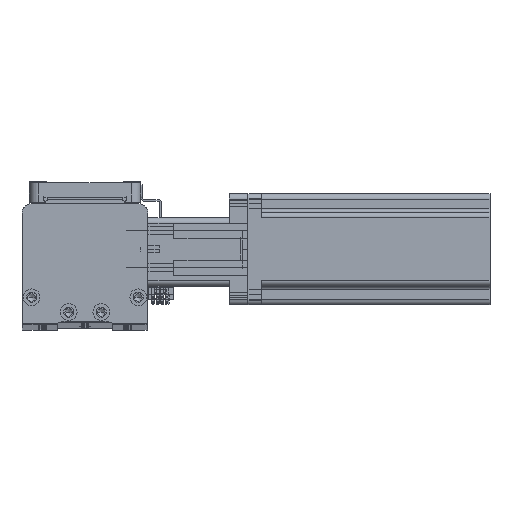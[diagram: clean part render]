
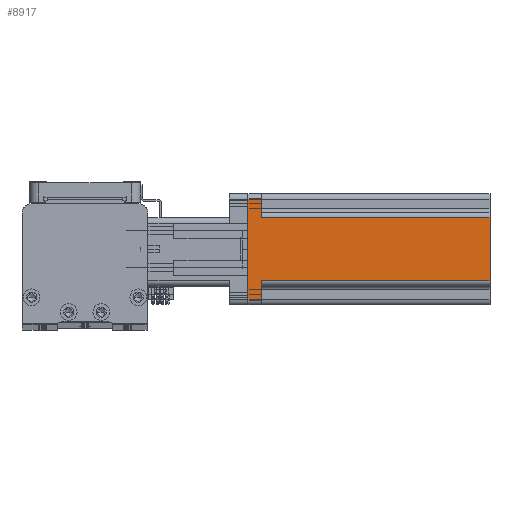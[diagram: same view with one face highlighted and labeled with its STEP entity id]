
A CAD part, top view. The second image highlights one B-rep face of the part: STEP entity #8917.
In plain terms, the highlighted planar face has unit normal (0, 0, 1) as drawn and (1, 0, 0) by its records, which use the part's own axes.
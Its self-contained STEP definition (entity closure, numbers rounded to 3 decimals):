
#638 = DIRECTION ( 'NONE',  ( 0., 0., 1. ) ) ;
#877 = CARTESIAN_POINT ( 'NONE',  ( 30., 17., 130.7 ) ) ;
#1776 = CARTESIAN_POINT ( 'NONE',  ( 30., 27., 130.7 ) ) ;
#1944 = VERTEX_POINT ( 'NONE', #25185 ) ;
#2016 = CARTESIAN_POINT ( 'NONE',  ( 30., 17., 130.7 ) ) ;
#2227 = EDGE_CURVE ( 'NONE', #5102, #1944, #44842, .T. ) ;
#2245 = CARTESIAN_POINT ( 'NONE',  ( 30., -30., 130.7 ) ) ;
#2794 = EDGE_CURVE ( 'NONE', #15644, #11544, #30689, .T. ) ;
#3377 = VECTOR ( 'NONE', #39679, 1000. ) ;
#5102 = VERTEX_POINT ( 'NONE', #40933 ) ;
#5184 = ORIENTED_EDGE ( 'NONE', *, *, #2794, .T. ) ;
#6042 = EDGE_CURVE ( 'NONE', #11544, #44655, #34759, .T. ) ;
#6319 = DIRECTION ( 'NONE',  ( 0., 1., 0. ) ) ;
#7543 = LINE ( 'NONE', #1776, #37627 ) ;
#8917 = ADVANCED_FACE ( 'NONE', ( #50187 ), #29107, .F. ) ;
#9025 = VECTOR ( 'NONE', #34470, 1000. ) ;
#11544 = VERTEX_POINT ( 'NONE', #49377 ) ;
#13808 = LINE ( 'NONE', #2245, #45254 ) ;
#15223 = VECTOR ( 'NONE', #41741, 1000. ) ;
#15644 = VERTEX_POINT ( 'NONE', #45072 ) ;
#16711 = EDGE_LOOP ( 'NONE', ( #28254, #50768, #23292, #5184, #36632, #45645, #38113, #36649 ) ) ;
#19877 = LINE ( 'NONE', #26411, #9025 ) ;
#20228 = CARTESIAN_POINT ( 'NONE',  ( 30., 17., 7.5 ) ) ;
#22086 = EDGE_CURVE ( 'NONE', #52511, #24939, #19877, .T. ) ;
#23292 = ORIENTED_EDGE ( 'NONE', *, *, #34218, .T. ) ;
#24601 = CARTESIAN_POINT ( 'NONE',  ( 30., -30., 7.5 ) ) ;
#24939 = VERTEX_POINT ( 'NONE', #37648 ) ;
#25185 = CARTESIAN_POINT ( 'NONE',  ( 30., -17., 7.5 ) ) ;
#25189 = DIRECTION ( 'NONE',  ( -1., 0., 0. ) ) ;
#25865 = CARTESIAN_POINT ( 'NONE',  ( 30., -27., 130.7 ) ) ;
#26411 = CARTESIAN_POINT ( 'NONE',  ( 30., 30., 7.5 ) ) ;
#28254 = ORIENTED_EDGE ( 'NONE', *, *, #38130, .F. ) ;
#28689 = LINE ( 'NONE', #877, #15223 ) ;
#29107 = PLANE ( 'NONE',  #46000 ) ;
#29959 = DIRECTION ( 'NONE',  ( 0., 0., -1. ) ) ;
#30106 = VECTOR ( 'NONE', #32639, 1000. ) ;
#30410 = DIRECTION ( 'NONE',  ( 0., 0., 1. ) ) ;
#30689 = LINE ( 'NONE', #25865, #51173 ) ;
#32639 = DIRECTION ( 'NONE',  ( 0., -1., 0. ) ) ;
#33910 = VECTOR ( 'NONE', #35378, 1000. ) ;
#34218 = EDGE_CURVE ( 'NONE', #1944, #15644, #51911, .T. ) ;
#34470 = DIRECTION ( 'NONE',  ( 0., 1., 0. ) ) ;
#34759 = LINE ( 'NONE', #43828, #3377 ) ;
#35378 = DIRECTION ( 'NONE',  ( 0., 0., -1. ) ) ;
#36632 = ORIENTED_EDGE ( 'NONE', *, *, #6042, .T. ) ;
#36649 = ORIENTED_EDGE ( 'NONE', *, *, #45910, .T. ) ;
#37396 = VERTEX_POINT ( 'NONE', #2016 ) ;
#37627 = VECTOR ( 'NONE', #30410, 1000. ) ;
#37648 = CARTESIAN_POINT ( 'NONE',  ( 30., 27., 7.5 ) ) ;
#38113 = ORIENTED_EDGE ( 'NONE', *, *, #22086, .F. ) ;
#38130 = EDGE_CURVE ( 'NONE', #5102, #37396, #13808, .T. ) ;
#39430 = CARTESIAN_POINT ( 'NONE',  ( 30., 27., 0. ) ) ;
#39679 = DIRECTION ( 'NONE',  ( 0., 1., 0. ) ) ;
#40933 = CARTESIAN_POINT ( 'NONE',  ( 30., -17., 130.7 ) ) ;
#41741 = DIRECTION ( 'NONE',  ( 0., 0., 1. ) ) ;
#43828 = CARTESIAN_POINT ( 'NONE',  ( 30., -30., 0. ) ) ;
#44655 = VERTEX_POINT ( 'NONE', #39430 ) ;
#44842 = LINE ( 'NONE', #47536, #33910 ) ;
#45072 = CARTESIAN_POINT ( 'NONE',  ( 30., -27., 7.5 ) ) ;
#45254 = VECTOR ( 'NONE', #6319, 1000. ) ;
#45645 = ORIENTED_EDGE ( 'NONE', *, *, #46071, .T. ) ;
#45910 = EDGE_CURVE ( 'NONE', #52511, #37396, #28689, .T. ) ;
#46000 = AXIS2_PLACEMENT_3D ( 'NONE', #49683, #25189, #638 ) ;
#46071 = EDGE_CURVE ( 'NONE', #44655, #24939, #7543, .T. ) ;
#47536 = CARTESIAN_POINT ( 'NONE',  ( 30., -17., 7.5 ) ) ;
#49377 = CARTESIAN_POINT ( 'NONE',  ( 30., -27., 0. ) ) ;
#49683 = CARTESIAN_POINT ( 'NONE',  ( 30., -30., 130.7 ) ) ;
#50187 = FACE_OUTER_BOUND ( 'NONE', #16711, .T. ) ;
#50768 = ORIENTED_EDGE ( 'NONE', *, *, #2227, .T. ) ;
#51173 = VECTOR ( 'NONE', #29959, 1000. ) ;
#51911 = LINE ( 'NONE', #24601, #30106 ) ;
#52511 = VERTEX_POINT ( 'NONE', #20228 ) ;
